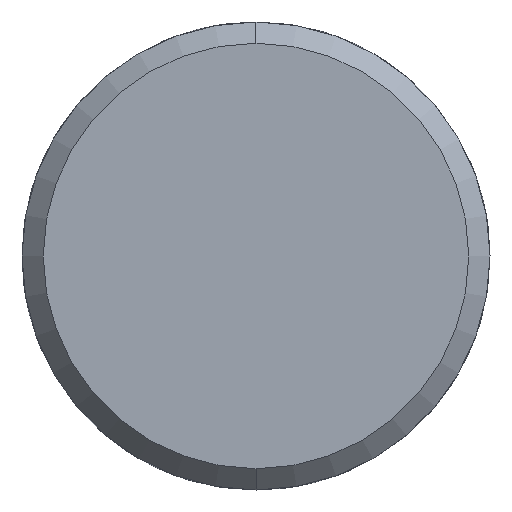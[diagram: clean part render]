
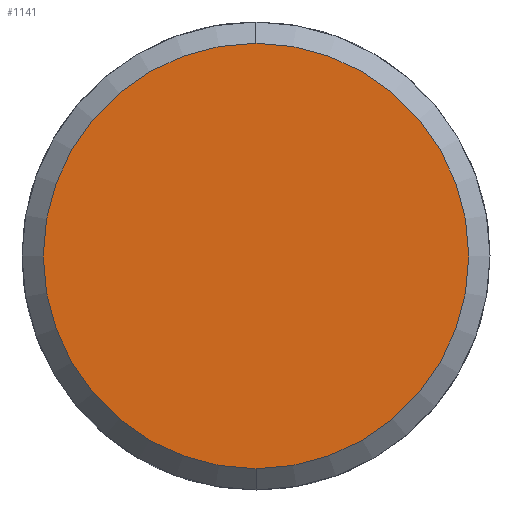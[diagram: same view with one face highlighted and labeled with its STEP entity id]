
A CAD part, left-side view. The second image highlights one B-rep face of the part: STEP entity #1141.
In plain terms, the highlighted planar face has unit normal (-1, 0, 0).
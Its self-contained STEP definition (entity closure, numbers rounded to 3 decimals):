
#1073=CARTESIAN_POINT('Vertex',(-5.,0.,-10.)) ;
#1076=CARTESIAN_POINT('Axis2P3D Location',(-5.,0.,0.)) ;
#1080=CARTESIAN_POINT('Vertex',(-5.,10.,0.)) ;
#1083=CARTESIAN_POINT('Axis2P3D Location',(-5.,0.,0.)) ;
#1087=CARTESIAN_POINT('Vertex',(-5.,0.,10.)) ;
#1109=CARTESIAN_POINT('Axis2P3D Location',(-5.,0.,0.)) ;
#1113=CARTESIAN_POINT('Vertex',(-5.,-10.,0.)) ;
#1116=CARTESIAN_POINT('Axis2P3D Location',(-5.,0.,0.)) ;
#1130=CARTESIAN_POINT('Axis2P3D Location',(-5.,0.,0.)) ;
#1077=DIRECTION('Axis2P3D Direction',(1.,0.,-0.)) ;
#1084=DIRECTION('Axis2P3D Direction',(1.,0.,-0.)) ;
#1110=DIRECTION('Axis2P3D Direction',(1.,0.,-0.)) ;
#1117=DIRECTION('Axis2P3D Direction',(1.,0.,-0.)) ;
#1131=DIRECTION('Axis2P3D Direction',(1.,0.,-0.)) ;
#1132=DIRECTION('Axis2P3D XDirection',(-0.,0.,-1.)) ;
#1078=AXIS2_PLACEMENT_3D('Circle Axis2P3D',#1076,#1077,$) ;
#1085=AXIS2_PLACEMENT_3D('Circle Axis2P3D',#1083,#1084,$) ;
#1111=AXIS2_PLACEMENT_3D('Circle Axis2P3D',#1109,#1110,$) ;
#1118=AXIS2_PLACEMENT_3D('Circle Axis2P3D',#1116,#1117,$) ;
#1133=AXIS2_PLACEMENT_3D('Plane Axis2P3D',#1130,#1131,#1132) ;
#1136=ORIENTED_EDGE('',*,*,#1082,.F.) ;
#1137=ORIENTED_EDGE('',*,*,#1120,.F.) ;
#1138=ORIENTED_EDGE('',*,*,#1115,.F.) ;
#1139=ORIENTED_EDGE('',*,*,#1089,.F.) ;
#1141=ADVANCED_FACE('351-12X22X50',(#1140),#1134,.F.) ;
#1079=CIRCLE('generated circle',#1078,10.) ;
#1086=CIRCLE('generated circle',#1085,10.) ;
#1112=CIRCLE('generated circle',#1111,10.) ;
#1119=CIRCLE('generated circle',#1118,10.) ;
#1082=EDGE_CURVE('',#1074,#1081,#1079,.T.) ;
#1089=EDGE_CURVE('',#1081,#1088,#1086,.T.) ;
#1115=EDGE_CURVE('',#1088,#1114,#1112,.T.) ;
#1120=EDGE_CURVE('',#1114,#1074,#1119,.T.) ;
#1135=EDGE_LOOP('',(#1136,#1137,#1138,#1139)) ;
#1140=FACE_OUTER_BOUND('',#1135,.T.) ;
#1134=PLANE('Plane',#1133) ;
#1074=VERTEX_POINT('',#1073) ;
#1081=VERTEX_POINT('',#1080) ;
#1088=VERTEX_POINT('',#1087) ;
#1114=VERTEX_POINT('',#1113) ;
